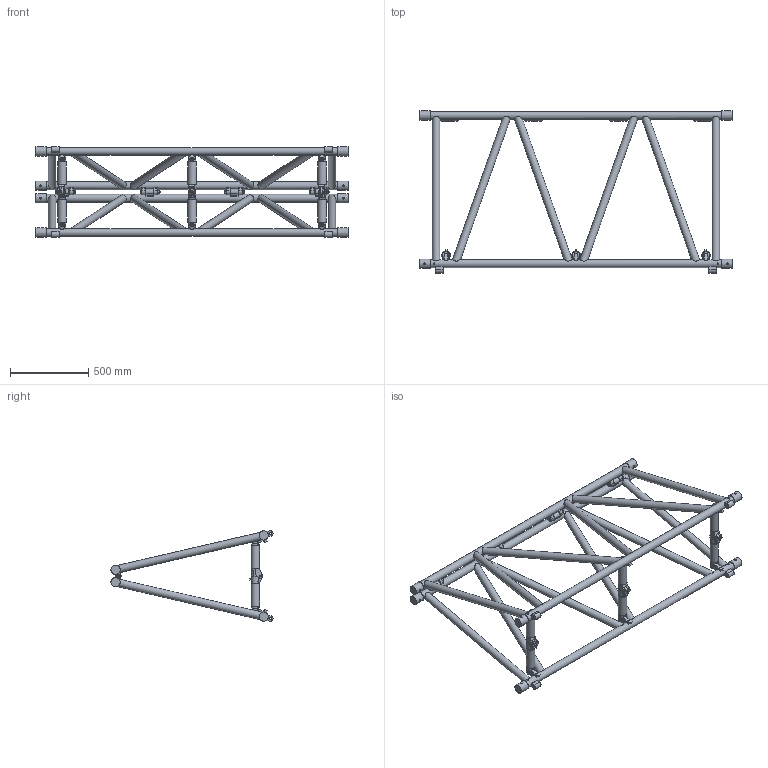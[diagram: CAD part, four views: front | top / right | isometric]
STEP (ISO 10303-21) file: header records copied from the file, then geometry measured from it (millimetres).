
FILE_DESCRIPTION(/* description */ (''),/* implementation_level */ '2;1');
FILE_NAME(/* name */ 'M:\Symbolen_NIEUW\STP\100-er truss\S100F\S100F-L200_111110033.stp',/* time_stamp */ '2017-11-30T15:34:54+01:00',/* author */ ('Kees'),/* organization */ (''),/* preprocessor_version */ 'ST-DEVELOPER v16.13',/* originating_system */ 'Autodesk Inventor 2018',/* authorisation */ '');
FILE_SCHEMA (('AUTOMOTIVE_DESIGN { 1 0 10303 214 3 1 1 }'));
Length unit declared in the file: millimetre
Products named in the file (1): 260000586
Bounding box: 2000 x 1038.68 x 580.51 mm (x, y, z)
Volume: 41281952.1 mm3; surface area: 3563247.1 mm2
Topology: 13 solids, 13 shells, 893 faces, 2297 edges, 1502 vertices
Faces by surface type: plane 596, cylinder 231, cone 66
Full cylindrical faces by diameter (mm): 10 x8, 12 x20, 12.5 x16, 12.8 x12, 13 x20, 17.4 x8, 24 x8, 48.3 x12, 50 x10, 54 x6, 58.8 x8
Entity records: 29240 total; most frequent: CARTESIAN_POINT 7349, DIRECTION 4351, ORIENTED_EDGE 4174, EDGE_CURVE 2087, AXIS2_PLACEMENT_3D 1618, VERTEX_POINT 1456, EDGE_LOOP 1265, LINE 1115
